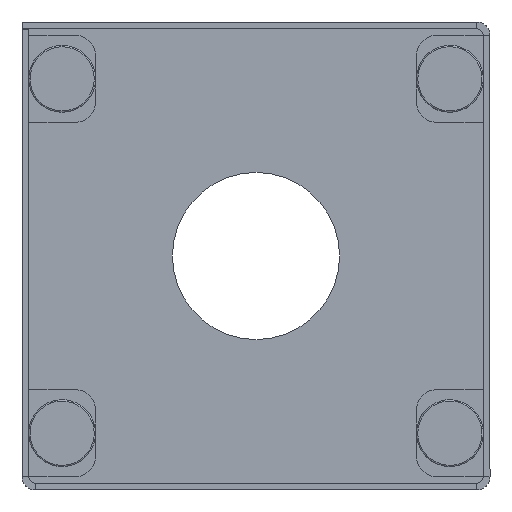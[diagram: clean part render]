
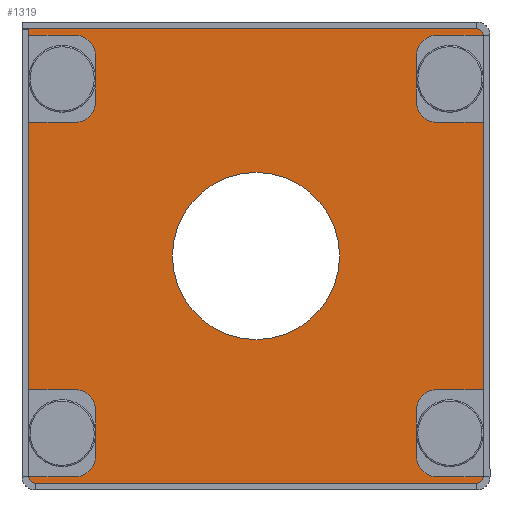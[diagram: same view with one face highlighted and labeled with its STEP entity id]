
A CAD part, front view. The second image highlights one B-rep face of the part: STEP entity #1319.
In plain terms, the highlighted planar face has unit normal (0, -1, 0).
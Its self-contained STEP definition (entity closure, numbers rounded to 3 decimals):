
#73 = EDGE_CURVE ( 'NONE', #658, #482, #732, .T. ) ;
#141 = CARTESIAN_POINT ( 'NONE',  ( 69., -2., 0. ) ) ;
#146 = VECTOR ( 'NONE', #1512, 1000. ) ;
#264 = DIRECTION ( 'NONE',  ( 0., 0., 1. ) ) ;
#293 = CARTESIAN_POINT ( 'NONE',  ( 69., -2., 0. ) ) ;
#302 = FACE_OUTER_BOUND ( 'NONE', #1018, .T. ) ;
#307 = CARTESIAN_POINT ( 'NONE',  ( 0., -2., -69. ) ) ;
#364 = EDGE_CURVE ( 'NONE', #879, #658, #1720, .T. ) ;
#391 = AXIS2_PLACEMENT_3D ( 'NONE', #1587, #1745, #1460 ) ;
#471 = VERTEX_POINT ( 'NONE', #1078 ) ;
#482 = VERTEX_POINT ( 'NONE', #1477 ) ;
#489 = CARTESIAN_POINT ( 'NONE',  ( 0., -2., 0. ) ) ;
#516 = VECTOR ( 'NONE', #1042, 1000. ) ;
#581 = LINE ( 'NONE', #994, #1072 ) ;
#635 = ORIENTED_EDGE ( 'NONE', *, *, #364, .F. ) ;
#646 = CARTESIAN_POINT ( 'NONE',  ( 0., -2., 0. ) ) ;
#658 = VERTEX_POINT ( 'NONE', #293 ) ;
#697 = ORIENTED_EDGE ( 'NONE', *, *, #846, .F. ) ;
#732 = LINE ( 'NONE', #141, #1729 ) ;
#790 = VERTEX_POINT ( 'NONE', #1266 ) ;
#821 = CARTESIAN_POINT ( 'NONE',  ( 0., -2., -69. ) ) ;
#846 = EDGE_CURVE ( 'NONE', #790, #471, #1576, .T. ) ;
#851 = ORIENTED_EDGE ( 'NONE', *, *, #1387, .F. ) ;
#857 = DIRECTION ( 'NONE',  ( 0., -1., 0. ) ) ;
#859 = PLANE ( 'NONE',  #1354 ) ;
#879 = VERTEX_POINT ( 'NONE', #646 ) ;
#970 = VERTEX_POINT ( 'NONE', #307 ) ;
#993 = DIRECTION ( 'NONE',  ( 0., 0., -1. ) ) ;
#994 = CARTESIAN_POINT ( 'NONE',  ( 0., -2., 0. ) ) ;
#1018 = EDGE_LOOP ( 'NONE', ( #1293, #1698, #1715, #635 ) ) ;
#1042 = DIRECTION ( 'NONE',  ( 1., 0., 0. ) ) ;
#1057 = EDGE_CURVE ( 'NONE', #970, #879, #581, .T. ) ;
#1072 = VECTOR ( 'NONE', #264, 1000. ) ;
#1078 = CARTESIAN_POINT ( 'NONE',  ( 34.5, -2., -47. ) ) ;
#1093 = CARTESIAN_POINT ( 'NONE',  ( 0., -2., 0. ) ) ;
#1116 = LINE ( 'NONE', #821, #146 ) ;
#1148 = DIRECTION ( 'NONE',  ( 0., 0., -1. ) ) ;
#1266 = CARTESIAN_POINT ( 'NONE',  ( 34.5, -2., -22. ) ) ;
#1293 = ORIENTED_EDGE ( 'NONE', *, *, #1057, .F. ) ;
#1319 = ADVANCED_FACE ( 'NONE', ( #1656, #302 ), #859, .T. ) ;
#1354 = AXIS2_PLACEMENT_3D ( 'NONE', #1093, #1369, #1761 ) ;
#1369 = DIRECTION ( 'NONE',  ( 0., -1., 0. ) ) ;
#1387 = EDGE_CURVE ( 'NONE', #471, #790, #1416, .T. ) ;
#1416 = CIRCLE ( 'NONE', #1496, 12.5 ) ;
#1460 = DIRECTION ( 'NONE',  ( 0., 0., -1. ) ) ;
#1477 = CARTESIAN_POINT ( 'NONE',  ( 69., -2., -69. ) ) ;
#1496 = AXIS2_PLACEMENT_3D ( 'NONE', #1689, #857, #1148 ) ;
#1512 = DIRECTION ( 'NONE',  ( -1., 0., 0. ) ) ;
#1576 = CIRCLE ( 'NONE', #391, 12.5 ) ;
#1587 = CARTESIAN_POINT ( 'NONE',  ( 34.5, -2., -34.5 ) ) ;
#1642 = EDGE_CURVE ( 'NONE', #482, #970, #1116, .T. ) ;
#1656 = FACE_BOUND ( 'NONE', #1666, .T. ) ;
#1666 = EDGE_LOOP ( 'NONE', ( #697, #851 ) ) ;
#1689 = CARTESIAN_POINT ( 'NONE',  ( 34.5, -2., -34.5 ) ) ;
#1698 = ORIENTED_EDGE ( 'NONE', *, *, #1642, .F. ) ;
#1715 = ORIENTED_EDGE ( 'NONE', *, *, #73, .F. ) ;
#1720 = LINE ( 'NONE', #489, #516 ) ;
#1729 = VECTOR ( 'NONE', #993, 1000. ) ;
#1745 = DIRECTION ( 'NONE',  ( 0., -1., 0. ) ) ;
#1761 = DIRECTION ( 'NONE',  ( 0., 0., -1. ) ) ;
